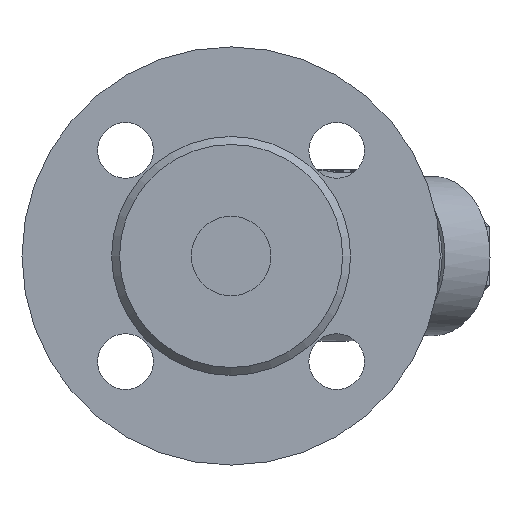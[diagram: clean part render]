
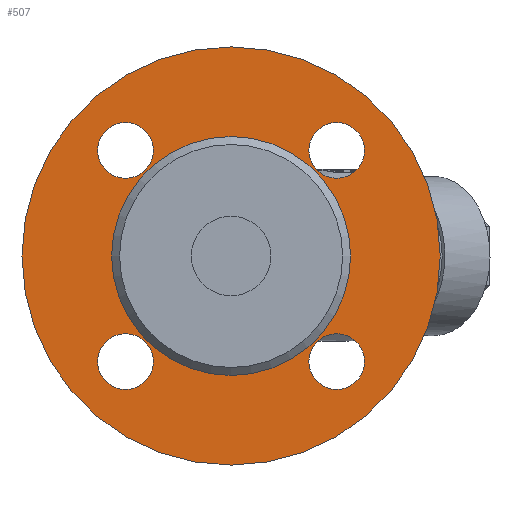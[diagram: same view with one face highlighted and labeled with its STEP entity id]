
A CAD part, left-side view. The second image highlights one B-rep face of the part: STEP entity #507.
In plain terms, the highlighted planar face has unit normal (-1, 0, 0).
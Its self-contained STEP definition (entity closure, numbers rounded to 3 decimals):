
#507=ADVANCED_FACE('',(#8367,#8369,#8371,#8373,#8375,#8377),#8379,.T.);
#8367=FACE_BOUND('',#8368,.T.);
#8368=EDGE_LOOP('',(#15201,#15202));
#8369=FACE_BOUND('',#8370,.T.);
#8370=EDGE_LOOP('',(#15203));
#8371=FACE_BOUND('',#8372,.T.);
#8372=EDGE_LOOP('',(#15204));
#8373=FACE_BOUND('',#8374,.T.);
#8374=EDGE_LOOP('',(#15205));
#8375=FACE_BOUND('',#8376,.T.);
#8376=EDGE_LOOP('',(#15206));
#8377=FACE_BOUND('',#8378,.T.);
#8378=EDGE_LOOP('',(#15207,#15208));
#8379=PLANE('',#8380);
#8380=AXIS2_PLACEMENT_3D('',#8381,#8382,#8383);
#8381=CARTESIAN_POINT('',(6163.376,-1742.373,-6.));
#8382=DIRECTION('',(-1.,0.,0.));
#8383=DIRECTION('',(0.,0.,1.));
#15201=ORIENTED_EDGE('',*,*,#20216,.F.);
#15202=ORIENTED_EDGE('',*,*,#20217,.F.);
#15203=ORIENTED_EDGE('',*,*,#20205,.T.);
#15204=ORIENTED_EDGE('',*,*,#20207,.T.);
#15205=ORIENTED_EDGE('',*,*,#20209,.T.);
#15206=ORIENTED_EDGE('',*,*,#20203,.T.);
#15207=ORIENTED_EDGE('',*,*,#20215,.T.);
#15208=ORIENTED_EDGE('',*,*,#20214,.T.);
#20203=EDGE_CURVE('',#23652,#23652,#23653,.T.);
#20205=EDGE_CURVE('',#23656,#23656,#23657,.T.);
#20207=EDGE_CURVE('',#23660,#23660,#23661,.T.);
#20209=EDGE_CURVE('',#23664,#23664,#23665,.T.);
#20214=EDGE_CURVE('',#23674,#23675,#23676,.T.);
#20215=EDGE_CURVE('',#23675,#23674,#23677,.T.);
#20216=EDGE_CURVE('',#23678,#23679,#23680,.T.);
#20217=EDGE_CURVE('',#23679,#23678,#23681,.T.);
#23652=VERTEX_POINT('',#32974);
#23653=CIRCLE('',#32975,7.);
#23656=VERTEX_POINT('',#32984);
#23657=CIRCLE('',#32985,7.);
#23660=VERTEX_POINT('',#32994);
#23661=CIRCLE('',#32995,7.);
#23664=VERTEX_POINT('',#33004);
#23665=CIRCLE('',#33005,7.);
#23674=VERTEX_POINT('',#33029);
#23675=VERTEX_POINT('',#33030);
#23676=CIRCLE('',#33031,30.);
#23677=CIRCLE('',#33035,30.);
#23678=VERTEX_POINT('',#33039);
#23679=VERTEX_POINT('',#33040);
#23680=CIRCLE('',#33041,52.5);
#23681=CIRCLE('',#33045,52.5);
#32974=CARTESIAN_POINT('',(6163.376,-1828.389,20.517));
#32975=AXIS2_PLACEMENT_3D('',#32976,#32977,#32978);
#32976=CARTESIAN_POINT('',(6163.376,-1821.389,20.517));
#32977=DIRECTION('',(1.,0.,0.));
#32978=DIRECTION('',(0.,-1.,0.));
#32984=CARTESIAN_POINT('',(6163.376,-1775.356,-32.517));
#32985=AXIS2_PLACEMENT_3D('',#32986,#32987,#32988);
#32986=CARTESIAN_POINT('',(6163.376,-1768.356,-32.517));
#32987=DIRECTION('',(1.,0.,0.));
#32988=DIRECTION('',(0.,-1.,0.));
#32994=CARTESIAN_POINT('',(6163.376,-1828.389,-32.517));
#32995=AXIS2_PLACEMENT_3D('',#32996,#32997,#32998);
#32996=CARTESIAN_POINT('',(6163.376,-1821.389,-32.517));
#32997=DIRECTION('',(1.,0.,0.));
#32998=DIRECTION('',(0.,-1.,0.));
#33004=CARTESIAN_POINT('',(6163.376,-1775.356,20.517));
#33005=AXIS2_PLACEMENT_3D('',#33006,#33007,#33008);
#33006=CARTESIAN_POINT('',(6163.376,-1768.356,20.517));
#33007=DIRECTION('',(1.,0.,0.));
#33008=DIRECTION('',(0.,-1.,0.));
#33029=CARTESIAN_POINT('',(6163.376,-1824.873,-6.));
#33030=CARTESIAN_POINT('',(6163.376,-1764.873,-6.));
#33031=AXIS2_PLACEMENT_3D('',#33032,#33033,#33034);
#33032=CARTESIAN_POINT('',(6163.376,-1794.873,-6.));
#33033=DIRECTION('',(1.,0.,0.));
#33034=DIRECTION('',(0.,-1.,0.));
#33035=AXIS2_PLACEMENT_3D('',#33036,#33037,#33038);
#33036=CARTESIAN_POINT('',(6163.376,-1794.873,-6.));
#33037=DIRECTION('',(1.,0.,0.));
#33038=DIRECTION('',(0.,1.,0.));
#33039=CARTESIAN_POINT('',(6163.376,-1847.373,-6.));
#33040=CARTESIAN_POINT('',(6163.376,-1742.373,-6.));
#33041=AXIS2_PLACEMENT_3D('',#33042,#33043,#33044);
#33042=CARTESIAN_POINT('',(6163.376,-1794.873,-6.));
#33043=DIRECTION('',(1.,0.,0.));
#33044=DIRECTION('',(0.,-1.,0.));
#33045=AXIS2_PLACEMENT_3D('',#33046,#33047,#33048);
#33046=CARTESIAN_POINT('',(6163.376,-1794.873,-6.));
#33047=DIRECTION('',(1.,0.,0.));
#33048=DIRECTION('',(0.,1.,0.));
